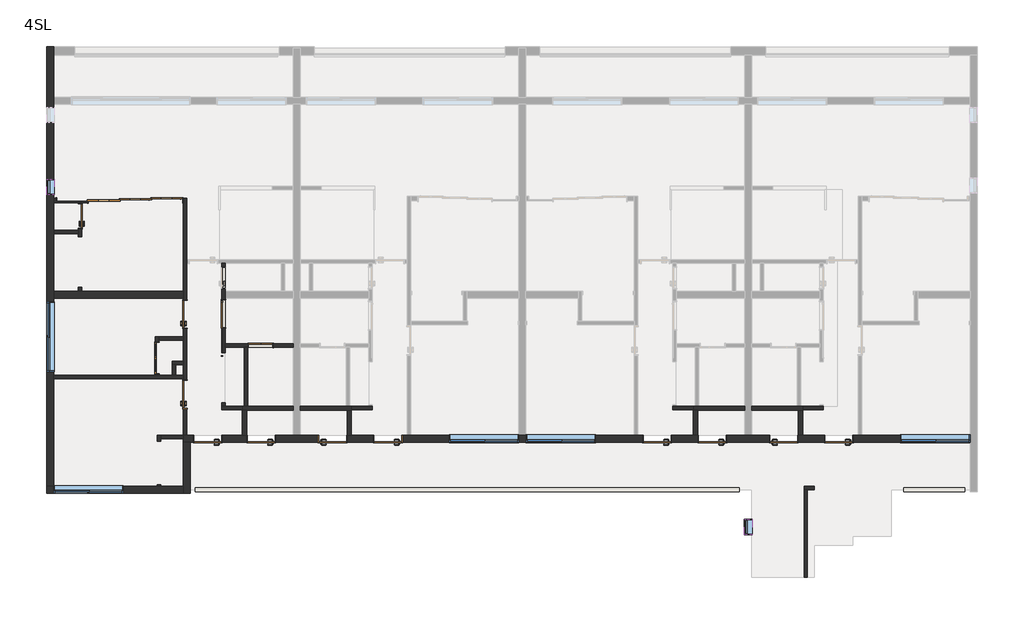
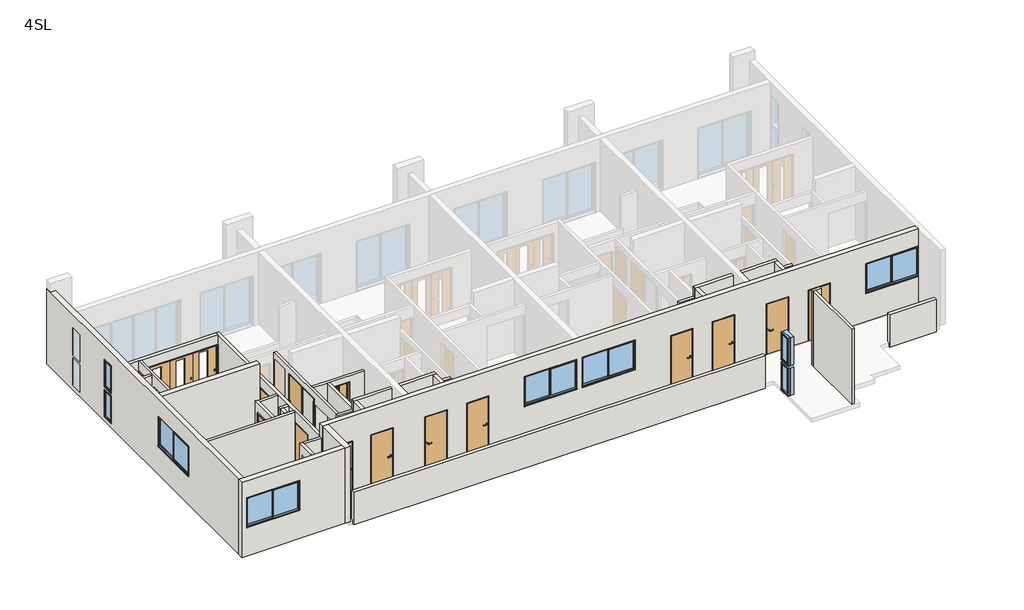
# One storey, part 1 of 3: 35 walls, 15 doors, 9 windows.
"""IFC4 building model written with IfcOpenShell, lengths in millimetres."""

from ifc_helpers import new_model, si_unit, frame, origin, place, context, project, spatial, polyline, outline, extrude, faceted_brep, transform, mapped, element, save
from components import door_02215395, door_74c77d62, door_21f0bdc0, door_3b96e66a, door_ecad7493, door_2193869f, door_aabc7979, door_12b42705, window_a7724039, window_4c3e1407, w0450_h1100_93ba837a

model = new_model("IFC4")

# Units and contexts
model_context = context("Model", 3, world=origin())
ifc_project = project(units=[si_unit("LENGTHUNIT", "METRE", prefix="MILLI")], contexts=[model_context])

# Site, building, storey
site = spatial("IfcSite", under=ifc_project)
building = spatial("IfcBuilding", under=site)
storey = spatial("IfcBuildingStorey", under=building, Name="4SL", Elevation=10000.0)

# Doors
placement = place(None, origin())
door_shape = door_02215395(model_context)
element("IfcDoor", 1, ObjectType="鋼製_片開きマンション黒 : SD-1 w800h2000", at=placement, inside=storey, context=model_context, shape_type="MappedRepresentation", body=[
    mapped(door_shape, transform((-6095.6194095, -909.7401342, 10000.0), x_axis=(-1.0, 0.0, 0.0), y_axis=(0.0, -1.0, 0.0), z_axis=(0.0, 0.0, 1.0))),
])
element("IfcDoor", 2, ObjectType="鋼製_片開きマンション黒 : SD-1 w800h2000", at=placement, inside=storey, context=model_context, shape_type="MappedRepresentation", body=[
    mapped(door_shape, transform((-945.6194095, -909.7401342, 10000.0), x_axis=(-1.0, 0.0, 0.0), y_axis=(0.0, -1.0, 0.0), z_axis=(0.0, 0.0, 1.0))),
])
element("IfcDoor", 3, ObjectType="鋼製_片開きマンション黒 : SD-1 w800h2000", at=placement, inside=storey, context=model_context, shape_type="MappedRepresentation", body=[
    mapped(door_shape, transform((6754.3805905, -909.7401342, 10000.0), x_axis=(-1.0, 0.0, 0.0), y_axis=(0.0, -1.0, 0.0), z_axis=(0.0, 0.0, 1.0))),
])
element("IfcDoor", 4, ObjectType="鋼製_片開きマンション黒 : SD-1 w800h2000", at=placement, inside=storey, context=model_context, shape_type="MappedRepresentation", body=[
    mapped(door_shape, transform((11954.3805905, -909.7401342, 10000.0), x_axis=(-1.0, 0.0, 0.0), y_axis=(0.0, -1.0, 0.0), z_axis=(0.0, 0.0, 1.0))),
])
element("IfcDoor", 5, ObjectType="鋼製_片開きマンション黒 : SD-2 w800h2000", at=placement, inside=storey, context=model_context, shape_type="MappedRepresentation", body=[
    mapped(door_shape, transform((-4565.6194095, -909.7401342, 10000.0), x_axis=(-1.0, 0.0, 0.0), y_axis=(0.0, -1.0, 0.0), z_axis=(0.0, 0.0, 1.0))),
])
element("IfcDoor", 6, ObjectType="鋼製_片開きマンション黒 : SD-2 w800h2000", at=placement, inside=storey, context=model_context, shape_type="MappedRepresentation", body=[
    mapped(door_shape, transform((8334.3805905, -909.7401342, 10000.0), x_axis=(-1.0, 0.0, 0.0), y_axis=(0.0, -1.0, 0.0), z_axis=(0.0, 0.0, 1.0))),
])
door_2_shape = door_74c77d62(model_context)
element("IfcDoor", 7, ObjectType="鋼製_片開きマンション黒 : SD-2 w800h2000", at=placement, inside=storey, context=model_context, shape_type="MappedRepresentation", body=[
    mapped(door_2_shape, transform((-2525.6194095, -909.7401342, 10000.0), x_axis=(1.0, 0.0, 0.0), y_axis=(0.0, 1.0, 0.0), z_axis=(0.0, 0.0, 1.0))),
])
element("IfcDoor", 8, ObjectType="鋼製_片開きマンション黒 : SD-2 w800h2000", at=placement, inside=storey, context=model_context, shape_type="MappedRepresentation", body=[
    mapped(door_2_shape, transform((10374.3805905, -909.7401342, 10000.0), x_axis=(1.0, 0.0, 0.0), y_axis=(0.0, 1.0, 0.0), z_axis=(0.0, 0.0, 1.0))),
])
door_3_shape = door_21f0bdc0(model_context)
element("IfcDoor", 9, ObjectType="木製_片開き_フラッシュ : WD-3 w700h2000", at=placement, inside=storey, context=model_context, shape_type="MappedRepresentation", body=[
    mapped(door_3_shape, transform((-9745.6194095, 5460.2598658, 10100.0), x_axis=(0.0, 1.0, 0.0), y_axis=(-1.0, 0.0, 0.0), z_axis=(0.0, 0.0, 1.0))),
])
door_4_shape = door_3b96e66a(model_context)
element("IfcDoor", 10, ObjectType="木製_片開き_フラッシュ : WD-1\u3000w800h2000", at=placement, inside=storey, context=model_context, shape_type="MappedRepresentation", body=[
    mapped(door_4_shape, transform((-6745.6194095, 365.2598658, 10060.0), x_axis=(0.0, 1.0, 0.0), y_axis=(-1.0, 0.0, 0.0), z_axis=(0.0, 0.0, 1.0))),
])
element("IfcDoor", 11, ObjectType="木製_片開き_フラッシュ : WD-1\u3000w800h2000", at=placement, inside=storey, context=model_context, shape_type="MappedRepresentation", body=[
    mapped(door_4_shape, transform((-6745.6194095, 2654.3897435, 10060.0), x_axis=(0.0, 1.0, 0.0), y_axis=(-1.0, 0.0, 0.0), z_axis=(0.0, 0.0, 1.0))),
])
door_5_shape = door_ecad7493(model_context)
element("IfcDoor", 12, ObjectType="木製_折戸2枚_フラッシュ(UB) : WD-5 w900h2000", at=placement, inside=storey, context=model_context, shape_type="MappedRepresentation", body=[
    mapped(door_5_shape, transform((-7545.6194095, 1404.0387532, 10060.0), x_axis=(0.0, 1.0, 0.0), y_axis=(-1.0, 0.0, 0.0), z_axis=(0.0, 0.0, 1.0))),
])
door_6_shape = door_2193869f(model_context)
element("IfcDoor", 13, ObjectType="木製_片引き3枚_フラッシュ2 : WD-8 w2700h2000", at=placement, inside=storey, context=model_context, shape_type="MappedRepresentation", body=[
    mapped(door_6_shape, transform((-8171.1549135, 5910.2598658, 10100.0), x_axis=(-1.0, 0.0, 0.0), y_axis=(0.0, -1.0, 0.0), z_axis=(0.0, 0.0, 1.0))),
])
door_7_shape = door_aabc7979(model_context)
element("IfcDoor", 14, ObjectType="木製_折戸2枚_フラッシュ(UB) : UB-1 w600h2000", at=placement, inside=storey, context=model_context, shape_type="MappedRepresentation", body=[
    mapped(door_7_shape, transform((-4585.6194095, 1760.2598658, 10210.0), x_axis=(1.0, 0.0, 0.0), y_axis=(0.0, 1.0, 0.0), z_axis=(0.0, 0.0, 1.0))),
])
door_8_shape = door_12b42705(model_context)
element("IfcDoor", 15, ObjectType="木製_片引き_フラッシュ : WD-4 w800h2000", at=placement, inside=storey, context=model_context, shape_type="MappedRepresentation", body=[
    mapped(door_8_shape, transform((-5645.6194095, 2664.7243619, 10210.0), x_axis=(0.0, -1.0, 0.0), y_axis=(1.0, 0.0, 0.0), z_axis=(0.0, 0.0, 1.0))),
])

# Walls
element("IfcWall", 16, ObjectType="(C2)120", at=placement, inside=storey, context=model_context, shape_type="Brep", body=[
    faceted_brep([(-3645.6194095, 30.2598658, 10000.0), (-5105.6194095, 30.2598658, 10000.0), (-5105.6194095, 30.2598658, 10060.0), (-5105.6194095, 30.2598658, 12460.0), (-5105.6194095, 30.2598658, 12850.0), (-3645.6194095, 30.2598658, 12850.0), (-3645.6194095, -89.7401342, 10000.0), (-3645.6194095, -89.7401342, 12850.0), (-4985.6194095, -89.7401342, 12850.0), (-5105.6194095, -89.7401342, 12850.0), (-5105.6194095, -89.7401342, 10000.0), (-4985.6194095, -89.7401342, 10000.0)], [[[0, 1, 2, 3, 4, 5]], [[6, 7, 8, 9, 10, 11]], [[1, 0, 6, 11, 10]], [[5, 4, 9, 8, 7]], [[1, 10, 9, 4, 3, 2]], [[0, 5, 7, 6]]]),
])
element("IfcWall", 17, ObjectType="(C2)120", at=placement, inside=storey, context=model_context, shape_type="Brep", body=[
    faceted_brep([(-5105.6194095, -89.7401342, 12850.0), (-5105.6194095, -89.7401342, 10000.0), (-5105.6194095, -809.7401342, 10000.0), (-5105.6194095, -809.7401342, 12850.0), (-4985.6194095, -89.7401342, 10000.0), (-4985.6194095, -89.7401342, 12850.0), (-4985.6194095, -809.7401342, 12850.0), (-4985.6194095, -809.7401342, 12020.0), (-4985.6194095, -809.7401342, 10000.0)], [[[0, 1, 2, 3]], [[4, 5, 6, 7, 8]], [[2, 1, 4, 8]], [[0, 3, 6, 5]], [[0, 5, 4, 1]], [[3, 2, 8, 7, 6]]]),
])
element("IfcWall", 18, ObjectType="(C2)120", at=placement, inside=storey, context=model_context, shape_type="Brep", body=[
    faceted_brep([(-3445.6194095, -89.7401342, 10000.0), (-2105.6194095, -89.7401342, 10000.0), (-1985.6194095, -89.7401342, 10000.0), (-1985.6194095, -89.7401342, 12850.0), (-2105.6194095, -89.7401342, 12850.0), (-3445.6194095, -89.7401342, 12850.0), (-3445.6194095, 30.2598658, 10000.0), (-3445.6194095, 30.2598658, 12850.0), (-1985.6194095, 30.2598658, 12850.0), (-1985.6194095, 30.2598658, 12460.0), (-1985.6194095, 30.2598658, 10000.0), (-2035.6194095, 30.2598658, 10000.0), (-2135.6194095, 30.2598658, 10000.0), (-1985.6194095, -69.7401342, 10000.0)], [[[0, 1, 2, 3, 4, 5]], [[6, 7, 8, 9, 10, 11, 12]], [[2, 1, 0, 6, 12, 11, 10, 13]], [[5, 4, 3, 8, 7]], [[2, 13, 10, 9, 8, 3]], [[0, 5, 7, 6]]]),
])
element("IfcWall", 19, ObjectType="(C2)120", at=placement, inside=storey, context=model_context, shape_type="Brep", body=[
    faceted_brep([(-2105.6194095, -89.7401342, 12850.0), (-2105.6194095, -89.7401342, 10000.0), (-2105.6194095, -809.7401342, 10000.0), (-2105.6194095, -809.7401342, 12020.0), (-2105.6194095, -809.7401342, 12850.0), (-1985.6194095, -89.7401342, 10000.0), (-1985.6194095, -89.7401342, 12850.0), (-1985.6194095, -809.7401342, 12850.0), (-1985.6194095, -809.7401342, 10000.0)], [[[0, 1, 2, 3, 4]], [[5, 6, 7, 8]], [[2, 1, 5, 8]], [[0, 4, 7, 6]], [[0, 6, 5, 1]], [[4, 3, 2, 8, 7]]]),
])
element("IfcWall", 20, ObjectType="(C2)120", at=placement, inside=storey, context=model_context, shape_type="Brep", body=[
    faceted_brep([(9254.3805905, 30.2598658, 10000.0), (7944.3805905, 30.2598658, 10000.0), (7844.3805905, 30.2598658, 10000.0), (7794.3805905, 30.2598658, 10000.0), (7794.3805905, 30.2598658, 12460.0), (7794.3805905, 30.2598658, 12850.0), (9254.3805905, 30.2598658, 12850.0), (9254.3805905, -89.7401342, 10000.0), (9254.3805905, -89.7401342, 12850.0), (7914.3805905, -89.7401342, 12850.0), (7794.3805905, -89.7401342, 12850.0), (7794.3805905, -89.7401342, 10000.0), (7914.3805905, -89.7401342, 10000.0), (7794.3805905, -69.7401342, 10000.0)], [[[0, 1, 2, 3, 4, 5, 6]], [[7, 8, 9, 10, 11, 12]], [[3, 2, 1, 0, 7, 12, 11, 13]], [[6, 5, 10, 9, 8]], [[3, 13, 11, 10, 5, 4]], [[0, 6, 8, 7]]]),
])
element("IfcWall", 21, ObjectType="(C2)120", at=placement, inside=storey, context=model_context, shape_type="Brep", body=[
    faceted_brep([(7794.3805905, -89.7401342, 12850.0), (7794.3805905, -89.7401342, 10000.0), (7794.3805905, -809.7401342, 10000.0), (7794.3805905, -809.7401342, 12850.0), (7914.3805905, -89.7401342, 10000.0), (7914.3805905, -89.7401342, 12850.0), (7914.3805905, -809.7401342, 12850.0), (7914.3805905, -809.7401342, 12020.0), (7914.3805905, -809.7401342, 10000.0)], [[[0, 1, 2, 3]], [[4, 5, 6, 7, 8]], [[2, 1, 4, 8]], [[0, 3, 6, 5]], [[0, 5, 4, 1]], [[3, 2, 8, 7, 6]]]),
])
element("IfcWall", 22, ObjectType="(C2)120", at=placement, inside=storey, context=model_context, shape_type="Brep", body=[
    faceted_brep([(9454.3805905, -89.7401342, 10000.0), (10794.3805905, -89.7401342, 10000.0), (10914.3805905, -89.7401342, 10000.0), (10914.3805905, -89.7401342, 12850.0), (10794.3805905, -89.7401342, 12850.0), (9454.3805905, -89.7401342, 12850.0), (9454.3805905, 30.2598658, 10000.0), (9454.3805905, 30.2598658, 12850.0), (10914.3805905, 30.2598658, 12850.0), (10914.3805905, 30.2598658, 12460.0), (10914.3805905, 30.2598658, 10000.0), (10864.3805905, 30.2598658, 10000.0), (10764.3805905, 30.2598658, 10000.0), (10914.3805905, -69.7401342, 10000.0)], [[[0, 1, 2, 3, 4, 5]], [[6, 7, 8, 9, 10, 11, 12]], [[2, 1, 0, 6, 12, 11, 10, 13]], [[5, 4, 3, 8, 7]], [[2, 13, 10, 9, 8, 3]], [[0, 5, 7, 6]]]),
])
element("IfcWall", 23, ObjectType="(C2)120", at=placement, inside=storey, context=model_context, shape_type="Brep", body=[
    faceted_brep([(10794.3805905, -89.7401342, 12850.0), (10794.3805905, -89.7401342, 10000.0), (10794.3805905, -809.7401342, 10000.0), (10794.3805905, -809.7401342, 12020.0), (10794.3805905, -809.7401342, 12850.0), (10914.3805905, -89.7401342, 10000.0), (10914.3805905, -89.7401342, 12850.0), (10914.3805905, -809.7401342, 12850.0), (10914.3805905, -809.7401342, 10000.0)], [[[0, 1, 2, 3, 4]], [[5, 6, 7, 8]], [[2, 1, 5, 8]], [[0, 4, 7, 6]], [[0, 6, 5, 1]], [[4, 3, 2, 8, 7]]]),
])
element("IfcWall", 24, ObjectType="(L)100", at=placement, inside=storey, context=model_context, shape_type="Brep", body=[
    faceted_brep([(-7545.6194095, -2259.7401342, 12460.0), (-7545.6194095, -809.7401342, 12460.0), (-7545.6194095, -809.7401342, 10060.0), (-7545.6194095, -975.9612468, 10060.0), (-7545.6194095, -975.9612468, 12080.0), (-7545.6194095, -2215.9612468, 12080.0), (-7545.6194095, -2215.9612468, 10060.0), (-7545.6194095, -2259.7401342, 10060.0), (-7445.6194095, -809.7401342, 12460.0), (-7445.6194095, -909.7401342, 12460.0), (-7445.6194095, -2259.7401342, 12460.0), (-7445.6194095, -2259.7401342, 10060.0), (-7445.6194095, -2215.9612468, 10060.0), (-7445.6194095, -2215.9612468, 12080.0), (-7445.6194095, -975.9612468, 12080.0), (-7445.6194095, -975.9612468, 10060.0), (-7445.6194095, -909.7401342, 10060.0), (-7445.6194095, -809.7401342, 10060.0)], [[[0, 1, 2, 3, 4, 5, 6, 7]], [[8, 9, 10, 11, 12, 13, 14, 15, 16, 17]], [[2, 17, 16, 15, 3]], [[11, 7, 6, 12]], [[1, 0, 10, 9, 8]], [[2, 1, 8, 17]], [[0, 7, 11, 10]], [[14, 4, 3, 15]], [[5, 13, 12, 6]], [[13, 5, 4, 14]]]),
])
element("IfcWall", 25, ObjectType="(L)100", at=placement, inside=storey, context=model_context, shape_type="SweptSolid", body=[
    extrude(outline(polyline([(-7445.6194095, -809.7401342), (-6795.6194095, -809.7401342), (-6795.6194095, -909.7401342), (-7445.6194095, -909.7401342), (-7445.6194095, -809.7401342)])), frame((0.0, 0.0, 10060.0), z_axis=(0.0, 0.0, 1.0), x_axis=(1.0, 0.0, 0.0)), (0.0, 0.0, 1.0), 2400.0),
])
element("IfcWall", 26, ObjectType="(L)100", at=placement, inside=storey, context=model_context, shape_type="Brep", body=[
    faceted_brep([(-6795.6194095, 910.2598658, 10060.0), (-7015.6194095, 910.2598658, 10060.0), (-7115.6194095, 910.2598658, 10060.0), (-10495.6194095, 910.2598658, 10060.0), (-10495.6194095, 910.2598658, 12460.0), (-7595.6194095, 910.2598658, 12460.0), (-7495.6194095, 910.2598658, 12460.0), (-7115.6194095, 910.2598658, 12460.0), (-7015.6194095, 910.2598658, 12460.0), (-6795.6194095, 910.2598658, 12460.0), (-6795.6194095, 810.2598658, 10060.0), (-6795.6194095, 810.2598658, 12460.0), (-10495.6194095, 810.2598658, 12460.0), (-10495.6194095, 810.2598658, 10060.0)], [[[0, 1, 2, 3, 4, 5, 6, 7, 8, 9]], [[10, 11, 12, 13]], [[3, 2, 1, 0, 10, 13]], [[9, 8, 7, 6, 5, 4, 12, 11]], [[4, 3, 13, 12]], [[0, 9, 11, 10]]]),
])
element("IfcWall", 27, ObjectType="(L)100", at=placement, inside=storey, context=model_context, shape_type="Brep", body=[
    faceted_brep([(-5105.6194095, 30.2598658, 10060.0), (-5595.6194095, 30.2598658, 10060.0), (-5695.6194095, 30.2598658, 10060.0), (-5695.6194095, 30.2598658, 12460.0), (-5595.6194095, 30.2598658, 12460.0), (-5105.6194095, 30.2598658, 12460.0), (-5105.6194095, -69.7401342, 10060.0), (-5105.6194095, -69.7401342, 12460.0), (-5695.6194095, -69.7401342, 12460.0), (-5695.6194095, -69.7401342, 10060.0)], [[[0, 1, 2, 3, 4, 5]], [[6, 7, 8, 9]], [[2, 1, 0, 6, 9]], [[5, 4, 3, 8, 7]], [[3, 2, 9, 8]], [[0, 5, 7, 6]]]),
])
element("IfcWall", 28, ObjectType="(L)100", at=placement, inside=storey, context=model_context, shape_type="Brep", body=[
    faceted_brep([(-5595.6194095, 4110.2598658, 12460.0), (-5595.6194095, 1810.2598658, 12460.0), (-5595.6194095, 1710.2598658, 12460.0), (-5595.6194095, 30.2598658, 12460.0), (-5595.6194095, 30.2598658, 10060.0), (-5595.6194095, 120.2598658, 10060.0), (-5595.6194095, 120.2598658, 12020.0), (-5595.6194095, 1560.2598658, 12020.0), (-5595.6194095, 1560.2598658, 10060.0), (-5595.6194095, 1710.2598658, 10060.0), (-5595.6194095, 1810.2598658, 10060.0), (-5595.6194095, 4110.2598658, 10060.0), (-5595.6194095, 2250.2598658, 12230.0), (-5595.6194095, 3090.2598658, 12230.0), (-5595.6194095, 3090.2598658, 10210.0), (-5595.6194095, 2250.2598658, 10210.0), (-5595.6194095, 4016.254513, 12230.0), (-5595.6194095, 4016.254513, 10210.0), (-5595.6194095, 3376.254513, 10210.0), (-5595.6194095, 3376.254513, 12230.0), (-5695.6194095, 30.2598658, 12460.0), (-5695.6194095, 4110.2598658, 12460.0), (-5695.6194095, 4110.2598658, 10060.0), (-5695.6194095, 1560.2598658, 10060.0), (-5695.6194095, 1560.2598658, 10210.0), (-5695.6194095, 3090.2598658, 10210.0), (-5695.6194095, 3090.2598658, 12230.0), (-5695.6194095, 1450.2598658, 12230.0), (-5695.6194095, 1450.2598658, 12020.0), (-5695.6194095, 120.2598658, 12020.0), (-5695.6194095, 120.2598658, 10060.0), (-5695.6194095, 30.2598658, 10060.0), (-5695.6194095, 4016.254513, 10210.0), (-5695.6194095, 4016.254513, 12230.0), (-5695.6194095, 3376.254513, 12230.0), (-5695.6194095, 3376.254513, 10210.0), (-5665.6194095, 2250.2598658, 12230.0), (-5665.6194095, 1450.2598658, 12230.0), (-5665.6194095, 1560.2598658, 10210.0), (-5665.6194095, 2250.2598658, 10210.0), (-5665.6194095, 1560.2598658, 12020.0), (-5665.6194095, 1450.2598658, 12020.0)], [[[0, 1, 2, 3, 4, 5, 6, 7, 8, 9, 10, 11], [12, 13, 14, 15], [16, 17, 18, 19]], [[20, 21, 22, 23, 24, 25, 26, 27, 28, 29, 30, 31], [32, 33, 34, 35]], [[22, 11, 10, 9, 8, 23]], [[4, 31, 30, 5]], [[3, 2, 1, 0, 21, 20]], [[0, 11, 22, 21]], [[4, 3, 20, 31]], [[36, 37, 27, 26, 13, 12]], [[13, 26, 25, 14]], [[14, 25, 24, 38, 39, 15]], [[39, 36, 12, 15]], [[37, 36, 39, 38, 40, 41]], [[27, 37, 41, 28]], [[7, 40, 38, 24, 23, 8]], [[29, 6, 5, 30]], [[40, 7, 6, 29, 28, 41]], [[16, 33, 32, 17]], [[17, 32, 35, 18]], [[18, 35, 34, 19]], [[33, 16, 19, 34]]]),
])
element("IfcWall", 29, ObjectType="(L)100", at=placement, inside=storey, context=model_context, shape_type="Brep", body=[
    faceted_brep([(-3645.6194095, 1810.2598658, 10060.0), (-5595.6194095, 1810.2598658, 10060.0), (-5595.6194095, 1810.2598658, 12460.0), (-3645.6194095, 1810.2598658, 12460.0), (-4215.6194095, 1810.2598658, 12230.0), (-4955.6194095, 1810.2598658, 12230.0), (-4955.6194095, 1810.2598658, 10210.0), (-4215.6194095, 1810.2598658, 10210.0), (-3645.6194095, 1710.2598658, 10060.0), (-3645.6194095, 1710.2598658, 12460.0), (-4955.6194095, 1710.2598658, 12460.0), (-5055.6194095, 1710.2598658, 12460.0), (-5595.6194095, 1710.2598658, 12460.0), (-5595.6194095, 1710.2598658, 10060.0), (-5055.6194095, 1710.2598658, 10060.0), (-4955.6194095, 1710.2598658, 10060.0), (-4215.6194095, 1710.2598658, 12230.0), (-4215.6194095, 1710.2598658, 10210.0), (-4955.6194095, 1710.2598658, 10210.0), (-4955.6194095, 1710.2598658, 12230.0)], [[[0, 1, 2, 3], [4, 5, 6, 7]], [[8, 9, 10, 11, 12, 13, 14, 15], [16, 17, 18, 19]], [[1, 0, 8, 15, 14, 13]], [[3, 2, 12, 11, 10, 9]], [[0, 3, 9, 8]], [[2, 1, 13, 12]], [[17, 16, 4, 7]], [[18, 17, 7, 6]], [[19, 18, 6, 5]], [[16, 19, 5, 4]]]),
])
element("IfcWall", 30, ObjectType="(L)100", at=placement, inside=storey, context=model_context, shape_type="Brep", body=[
    faceted_brep([(-7595.6194095, 2010.2598658, 10000.0), (-7595.6194095, 910.2598658, 10000.0), (-7595.6194095, 910.2598658, 12460.0), (-7595.6194095, 2010.2598658, 12460.0), (-7595.6194095, 934.0387532, 10060.0), (-7595.6194095, 1874.0387532, 10060.0), (-7595.6194095, 1874.0387532, 12080.0), (-7595.6194095, 934.0387532, 12080.0), (-7495.6194095, 910.2598658, 10000.0), (-7495.6194095, 2010.2598658, 10000.0), (-7495.6194095, 2010.2598658, 10060.0), (-7495.6194095, 2010.2598658, 12460.0), (-7495.6194095, 1910.2598658, 12460.0), (-7495.6194095, 910.2598658, 12460.0), (-7495.6194095, 1874.0387532, 10060.0), (-7495.6194095, 934.0387532, 10060.0), (-7495.6194095, 934.0387532, 12080.0), (-7495.6194095, 1874.0387532, 12080.0)], [[[0, 1, 2, 3], [4, 5, 6, 7]], [[8, 9, 10, 11, 12, 13], [14, 15, 16, 17]], [[1, 0, 9, 8]], [[3, 2, 13, 12, 11]], [[0, 3, 11, 10, 9]], [[2, 1, 8, 13]], [[5, 14, 17, 6]], [[14, 5, 4, 15]], [[15, 4, 7, 16]], [[16, 7, 6, 17]]]),
])
element("IfcWall", 31, ObjectType="(L)100", at=placement, inside=storey, context=model_context, shape_type="SweptSolid", body=[
    extrude(outline(polyline([(-7495.6194095, 2010.2598658), (-6795.6194095, 2010.2598658), (-6795.6194095, 1910.2598658), (-7495.6194095, 1910.2598658), (-7495.6194095, 2010.2598658)])), frame((0.0, 0.0, 10060.0), z_axis=(0.0, 0.0, 1.0), x_axis=(1.0, 0.0, 0.0)), (0.0, 0.0, 1.0), 2400.0),
])
element("IfcWall", 32, ObjectType="(L)100", at=placement, inside=storey, context=model_context, shape_type="Brep", body=[
    faceted_brep([(-6795.6194095, -809.7401342, 12500.0), (-6795.6194095, 5847.7598658, 12500.0), (-6795.6194095, 5972.7598658, 12500.0), (-6795.6194095, 5972.7598658, 12120.0), (-6795.6194095, 5972.7598658, 10100.0), (-6795.6194095, 3074.3897435, 10100.0), (-6795.6194095, 3074.3897435, 12080.0), (-6795.6194095, 2234.3897435, 12080.0), (-6795.6194095, 2234.3897435, 10100.0), (-6795.6194095, 785.2598658, 10100.0), (-6795.6194095, 785.2598658, 12080.0), (-6795.6194095, -54.7401342, 12080.0), (-6795.6194095, -54.7401342, 10100.0), (-6795.6194095, -809.7401342, 10100.0), (-6695.6194095, 5972.7598658, 12500.0), (-6695.6194095, -809.7401342, 12500.0), (-6695.6194095, -809.7401342, 10100.0), (-6695.6194095, -54.7401342, 10100.0), (-6695.6194095, -54.7401342, 12080.0), (-6695.6194095, 785.2598658, 12080.0), (-6695.6194095, 785.2598658, 10100.0), (-6695.6194095, 2234.3897435, 10100.0), (-6695.6194095, 2234.3897435, 12080.0), (-6695.6194095, 3074.3897435, 12080.0), (-6695.6194095, 3074.3897435, 10100.0), (-6695.6194095, 5972.7598658, 10100.0)], [[[0, 1, 2, 3, 4, 5, 6, 7, 8, 9, 10, 11, 12, 13]], [[14, 15, 16, 17, 18, 19, 20, 21, 22, 23, 24, 25]], [[4, 25, 24, 5]], [[16, 13, 12, 17]], [[20, 9, 8, 21]], [[2, 1, 0, 15, 14]], [[4, 3, 2, 14, 25]], [[13, 16, 15, 0]], [[19, 10, 9, 20]], [[11, 18, 17, 12]], [[10, 19, 18, 11]], [[23, 6, 5, 24]], [[7, 22, 21, 8]], [[6, 23, 22, 7]]]),
])
element("IfcWall", 33, ObjectType="(L)100", at=placement, inside=storey, context=model_context, shape_type="SweptSolid", body=[
    extrude(outline(polyline([(3310.2598658, 12500.0), (5847.7598658, 12500.0), (5847.7598658, 10100.0), (5830.2598658, 10100.0), (5830.2598658, 12120.0), (5090.2598658, 12120.0), (5090.2598658, 10100.0), (4866.254513, 10100.0), (4866.254513, 12080.0), (3426.254513, 12080.0), (3426.254513, 10100.0), (3310.2598658, 10100.0), (3310.2598658, 12500.0)])), frame((-9795.6194095, 0.0, 0.0), z_axis=(1.0, 0.0, 0.0), x_axis=(0.0, 1.0, 0.0)), (0.0, 0.0, 1.0), 100.0),
])
element("IfcWall", 34, ObjectType="(L)100", at=placement, inside=storey, context=model_context, shape_type="SweptSolid", body=[
    extrude(outline(polyline([(-10495.6194095, 5060.2598658), (-9795.6194095, 5060.2598658), (-9795.6194095, 4960.2598658), (-10495.6194095, 4960.2598658), (-10495.6194095, 5060.2598658)])), frame((0.0, 0.0, 10060.0), z_axis=(0.0, 0.0, 1.0), x_axis=(1.0, 0.0, 0.0)), (0.0, 0.0, 1.0), 2400.0),
])
element("IfcWall", 35, ObjectType="(L)100", at=placement, inside=storey, context=model_context, shape_type="Brep", body=[
    faceted_brep([(-1985.6194095, -69.7401342, 10000.0), (-1395.6194095, -69.7401342, 10000.0), (-1395.6194095, -69.7401342, 12460.0), (-1985.6194095, -69.7401342, 12460.0), (-1985.6194095, 30.2598658, 10000.0), (-1985.6194095, 30.2598658, 12460.0), (-1495.6194095, 30.2598658, 12460.0), (-1395.6194095, 30.2598658, 12460.0), (-1395.6194095, 30.2598658, 10060.0), (-1395.6194095, 30.2598658, 10000.0)], [[[0, 1, 2, 3]], [[4, 5, 6, 7, 8, 9]], [[1, 0, 4, 9]], [[3, 2, 7, 6, 5]], [[2, 1, 9, 8, 7]], [[0, 3, 5, 4]]]),
])
element("IfcWall", 36, ObjectType="(L)100", at=placement, inside=storey, context=model_context, shape_type="Brep", body=[
    faceted_brep([(-5055.6194095, 1710.2598658, 10060.0), (-5055.6194095, 30.2598658, 10060.0), (-5055.6194095, 30.2598658, 12460.0), (-5055.6194095, 1710.2598658, 12460.0), (-4955.6194095, 1710.2598658, 10060.0), (-4955.6194095, 1710.2598658, 10210.0), (-4955.6194095, 1710.2598658, 12230.0), (-4955.6194095, 1710.2598658, 12460.0), (-4955.6194095, 30.2598658, 12460.0), (-4955.6194095, 30.2598658, 10060.0)], [[[0, 1, 2, 3]], [[4, 5, 6, 7, 8, 9]], [[1, 0, 4, 9]], [[3, 2, 8, 7]], [[2, 1, 9, 8]], [[0, 3, 7, 6, 5, 4]]]),
])
element("IfcWall", 37, ObjectType="(L)100", at=placement, inside=storey, context=model_context, shape_type="Brep", body=[
    faceted_brep([(7794.3805905, 30.2598658, 10000.0), (7204.3805905, 30.2598658, 10000.0), (7204.3805905, 30.2598658, 10060.0), (7204.3805905, 30.2598658, 12460.0), (7304.3805905, 30.2598658, 12460.0), (7794.3805905, 30.2598658, 12460.0), (7794.3805905, -69.7401342, 10000.0), (7794.3805905, -69.7401342, 12460.0), (7204.3805905, -69.7401342, 12460.0), (7204.3805905, -69.7401342, 10000.0)], [[[0, 1, 2, 3, 4, 5]], [[6, 7, 8, 9]], [[1, 0, 6, 9]], [[5, 4, 3, 8, 7]], [[3, 2, 1, 9, 8]], [[0, 5, 7, 6]]]),
])
element("IfcWall", 38, ObjectType="(L)100", at=placement, inside=storey, context=model_context, shape_type="Brep", body=[
    faceted_brep([(10914.3805905, -69.7401342, 10000.0), (11504.3805905, -69.7401342, 10000.0), (11504.3805905, -69.7401342, 12460.0), (10914.3805905, -69.7401342, 12460.0), (10914.3805905, 30.2598658, 10000.0), (10914.3805905, 30.2598658, 12460.0), (11404.3805905, 30.2598658, 12460.0), (11504.3805905, 30.2598658, 12460.0), (11504.3805905, 30.2598658, 10060.0), (11504.3805905, 30.2598658, 10000.0)], [[[0, 1, 2, 3]], [[4, 5, 6, 7, 8, 9]], [[1, 0, 4, 9]], [[3, 2, 7, 6, 5]], [[2, 1, 9, 8, 7]], [[0, 3, 5, 4]]]),
])
element("IfcWall", 39, ObjectType="(L)100", at=placement, inside=storey, context=model_context, shape_type="Brep", body=[
    faceted_brep([(-6795.6194095, 1310.2598658, 10060.0), (-7115.6194095, 1310.2598658, 10060.0), (-7115.6194095, 1310.2598658, 12460.0), (-6795.6194095, 1310.2598658, 12460.0), (-6795.6194095, 1210.2598658, 10060.0), (-6795.6194095, 1210.2598658, 12460.0), (-7015.6194095, 1210.2598658, 12460.0), (-7115.6194095, 1210.2598658, 12460.0), (-7115.6194095, 1210.2598658, 10060.0), (-7015.6194095, 1210.2598658, 10060.0)], [[[0, 1, 2, 3]], [[4, 5, 6, 7, 8, 9]], [[1, 0, 4, 9, 8]], [[3, 2, 7, 6, 5]], [[2, 1, 8, 7]], [[0, 3, 5, 4]]]),
])
element("IfcWall", 40, ObjectType="(L)100", at=placement, inside=storey, context=model_context, shape_type="SweptSolid", body=[
    extrude(outline(polyline([(-7115.6194095, 910.2598658), (-7115.6194095, 1210.2598658), (-7015.6194095, 1210.2598658), (-7015.6194095, 910.2598658), (-7115.6194095, 910.2598658)])), frame((0.0, 0.0, 10060.0), z_axis=(0.0, 0.0, 1.0), x_axis=(1.0, 0.0, 0.0)), (0.0, 0.0, 1.0), 2400.0),
])
element("IfcWall", 41, ObjectType="(L)100", at=placement, inside=storey, context=model_context, shape_type="Brep", body=[
    faceted_brep([(11254.3805905, -2259.7401342, 10000.0), (10954.3805905, -2259.7401342, 10000.0), (10954.3805905, -2259.7401342, 13000.0), (11254.3805905, -2259.7401342, 13000.0), (11254.3805905, -2359.7401342, 10000.0), (11254.3805905, -2359.7401342, 13000.0), (11054.3805905, -2359.7401342, 13000.0), (10954.3805905, -2359.7401342, 13000.0), (10954.3805905, -2359.7401342, 10000.0), (11054.3805905, -2359.7401342, 10000.0)], [[[0, 1, 2, 3]], [[4, 5, 6, 7, 8, 9]], [[1, 0, 4, 9, 8]], [[3, 2, 7, 6, 5]], [[2, 1, 8, 7]], [[0, 3, 5, 4]]]),
])
element("IfcWall", 42, ObjectType="(L)100", at=placement, inside=storey, context=model_context, shape_type="SweptSolid", body=[
    extrude(outline(polyline([(10954.3805905, -4859.7401342), (10954.3805905, -2359.7401342), (11054.3805905, -2359.7401342), (11054.3805905, -4859.7401342), (10954.3805905, -4859.7401342)])), frame((0.0, 0.0, 10000.0), z_axis=(0.0, 0.0, 1.0), x_axis=(1.0, 0.0, 0.0)), (0.0, 0.0, 1.0), 3000.0),
])
element("IfcWall", 43, ObjectType="(L1)125", at=placement, inside=storey, context=model_context, shape_type="Brep", body=[
    faceted_brep([(-6795.6194095, 5847.7598658, 12500.0), (-9695.6194095, 5847.7598658, 12500.0), (-9795.6194095, 5847.7598658, 12500.0), (-10495.6194095, 5847.7598658, 12500.0), (-10495.6194095, 5847.7598658, 10100.0), (-9795.6194095, 5847.7598658, 10100.0), (-9695.6194095, 5847.7598658, 10100.0), (-9535.6194095, 5847.7598658, 10100.0), (-9535.6194095, 5847.7598658, 12120.0), (-6795.6194095, 5847.7598658, 12120.0), (-10495.6194095, 5972.7598658, 12500.0), (-6795.6194095, 5972.7598658, 12500.0), (-6795.6194095, 5972.7598658, 12120.0), (-10435.6194095, 5972.7598658, 12120.0), (-10435.6194095, 5972.7598658, 10100.0), (-10495.6194095, 5972.7598658, 10100.0), (-10435.6194095, 5882.7598658, 10100.0), (-9535.6194095, 5882.7598658, 10100.0), (-9535.6194095, 5882.7598658, 12120.0), (-10435.6194095, 5882.7598658, 12120.0)], [[[0, 1, 2, 3, 4, 5, 6, 7, 8, 9]], [[10, 11, 12, 13, 14, 15]], [[4, 15, 14, 16, 17, 7, 6, 5]], [[3, 2, 1, 0, 11, 10]], [[4, 3, 10, 15]], [[11, 0, 9, 12]], [[18, 19, 13, 12, 9, 8]], [[17, 18, 8, 7]], [[19, 18, 17, 16]], [[19, 16, 14, 13]]]),
])
element("IfcWall", 44, ObjectType="(R)120", at=placement, inside=storey, context=model_context, shape_type="SweptSolid", body=[
    extrude(outline(polyline([(9104.3805905, -2419.7401342), (-6448.5682145, -2419.7401342), (-6448.5682145, -2299.7401342), (9104.3805905, -2299.7401342), (9104.3805905, -2419.7401342)])), frame((0.0, 0.0, 9800.0), z_axis=(0.0, 0.0, 1.0), x_axis=(1.0, 0.0, 0.0)), (0.0, 0.0, 1.0), 1300.0),
])
element("IfcWall", 45, ObjectType="(R)120", at=placement, inside=storey, context=model_context, shape_type="SweptSolid", body=[
    extrude(outline(polyline([(15554.3805905, -2419.7401342), (13804.3805905, -2419.7401342), (13804.3805905, -2299.7401342), (15554.3805905, -2299.7401342), (15554.3805905, -2419.7401342)])), frame((0.0, 0.0, 9800.0), z_axis=(0.0, 0.0, 1.0), x_axis=(1.0, 0.0, 0.0)), (0.0, 0.0, 1.0), 1300.0),
])
element("IfcWall", 46, ObjectType="(R)200", at=placement, inside=storey, context=model_context, shape_type="Brep", body=[
    faceted_brep([(-6795.6194095, -809.7401342, 13000.0), (-3645.6194095, -809.7401342, 13000.0), (-3445.6194095, -809.7401342, 13000.0), (2804.3805905, -809.7401342, 13000.0), (3004.3805905, -809.7401342, 13000.0), (9254.3805905, -809.7401342, 13000.0), (9454.3805905, -809.7401342, 13000.0), (15704.3805905, -809.7401342, 13000.0), (15704.3805905, -809.7401342, 12320.0), (13704.3805905, -809.7401342, 12320.0), (13704.3805905, -809.7401342, 11120.0), (15704.3805905, -809.7401342, 11120.0), (15704.3805905, -809.7401342, 10000.0), (12374.3805905, -809.7401342, 10000.0), (12374.3805905, -809.7401342, 12020.0), (11534.3805905, -809.7401342, 12020.0), (11534.3805905, -809.7401342, 10000.0), (10914.3805905, -809.7401342, 10000.0), (10794.3805905, -809.7401342, 10000.0), (10794.3805905, -809.7401342, 12020.0), (9954.3805905, -809.7401342, 12020.0), (9954.3805905, -809.7401342, 10000.0), (9454.3805905, -809.7401342, 10000.0), (9254.3805905, -809.7401342, 10000.0), (8754.3805905, -809.7401342, 10000.0), (8754.3805905, -809.7401342, 12020.0), (7914.3805905, -809.7401342, 12020.0), (7914.3805905, -809.7401342, 10000.0), (7794.3805905, -809.7401342, 10000.0), (7174.3805905, -809.7401342, 10000.0), (7174.3805905, -809.7401342, 12020.0), (6334.3805905, -809.7401342, 12020.0), (6334.3805905, -809.7401342, 10000.0), (3004.3805905, -809.7401342, 10000.0), (2804.3805905, -809.7401342, 10000.0), (-525.6194095, -809.7401342, 10000.0), (-525.6194095, -809.7401342, 12020.0), (-1365.6194095, -809.7401342, 12020.0), (-1365.6194095, -809.7401342, 10000.0), (-1985.6194095, -809.7401342, 10000.0), (-2105.6194095, -809.7401342, 10000.0), (-2105.6194095, -809.7401342, 12020.0), (-2945.6194095, -809.7401342, 12020.0), (-2945.6194095, -809.7401342, 10000.0), (-3445.6194095, -809.7401342, 10000.0), (-3645.6194095, -809.7401342, 10000.0), (-4145.6194095, -809.7401342, 10000.0), (-4145.6194095, -809.7401342, 12020.0), (-4985.6194095, -809.7401342, 12020.0), (-4985.6194095, -809.7401342, 10000.0), (-5105.6194095, -809.7401342, 10000.0), (-5675.6194095, -809.7401342, 10000.0), (-5675.6194095, -809.7401342, 12020.0), (-6515.6194095, -809.7401342, 12020.0), (-6515.6194095, -809.7401342, 10000.0), (-6795.6194095, -809.7401342, 10000.0), (-6795.6194095, -809.7401342, 10100.0), (-6795.6194095, -809.7401342, 12500.0), (5004.3805905, -809.7401342, 11120.0), (5004.3805905, -809.7401342, 12320.0), (3004.3805905, -809.7401342, 12320.0), (3004.3805905, -809.7401342, 11120.0), (2804.3805905, -809.7401342, 11120.0), (2804.3805905, -809.7401342, 12320.0), (804.3805905, -809.7401342, 12320.0), (804.3805905, -809.7401342, 11120.0), (15704.3805905, -1009.7401342, 13000.0), (-6595.6194095, -1009.7401342, 13000.0), (-6795.6194095, -1009.7401342, 13000.0), (-6795.6194095, -1009.7401342, 10000.0), (-6595.6194095, -1009.7401342, 10000.0), (-6515.6194095, -1009.7401342, 10000.0), (-6515.6194095, -1009.7401342, 12020.0), (-5675.6194095, -1009.7401342, 12020.0), (-5675.6194095, -1009.7401342, 10000.0), (-4985.6194095, -1009.7401342, 10000.0), (-4985.6194095, -1009.7401342, 12020.0), (-4145.6194095, -1009.7401342, 12020.0), (-4145.6194095, -1009.7401342, 10000.0), (-2945.6194095, -1009.7401342, 10000.0), (-2945.6194095, -1009.7401342, 12020.0), (-2105.6194095, -1009.7401342, 12020.0), (-2105.6194095, -1009.7401342, 10000.0), (-1365.6194095, -1009.7401342, 10000.0), (-1365.6194095, -1009.7401342, 12020.0), (-525.6194095, -1009.7401342, 12020.0), (-525.6194095, -1009.7401342, 10000.0), (6334.3805905, -1009.7401342, 10000.0), (6334.3805905, -1009.7401342, 12020.0), (7174.3805905, -1009.7401342, 12020.0), (7174.3805905, -1009.7401342, 10000.0), (7914.3805905, -1009.7401342, 10000.0), (7914.3805905, -1009.7401342, 12020.0), (8754.3805905, -1009.7401342, 12020.0), (8754.3805905, -1009.7401342, 10000.0), (9954.3805905, -1009.7401342, 10000.0), (9954.3805905, -1009.7401342, 12020.0), (10794.3805905, -1009.7401342, 12020.0), (10794.3805905, -1009.7401342, 10000.0), (11534.3805905, -1009.7401342, 10000.0), (11534.3805905, -1009.7401342, 12020.0), (12374.3805905, -1009.7401342, 12020.0), (12374.3805905, -1009.7401342, 10000.0), (15704.3805905, -1009.7401342, 10000.0), (15704.3805905, -1009.7401342, 11120.0), (13704.3805905, -1009.7401342, 11120.0), (13704.3805905, -1009.7401342, 12320.0), (15704.3805905, -1009.7401342, 12320.0), (5004.3805905, -1009.7401342, 11120.0), (3004.3805905, -1009.7401342, 11120.0), (3004.3805905, -1009.7401342, 12320.0), (5004.3805905, -1009.7401342, 12320.0), (2804.3805905, -1009.7401342, 11120.0), (804.3805905, -1009.7401342, 11120.0), (804.3805905, -1009.7401342, 12320.0), (2804.3805905, -1009.7401342, 12320.0)], [[[0, 1, 2, 3, 4, 5, 6, 7, 8, 9, 10, 11, 12, 13, 14, 15, 16, 17, 18, 19, 20, 21, 22, 23, 24, 25, 26, 27, 28, 29, 30, 31, 32, 33, 34, 35, 36, 37, 38, 39, 40, 41, 42, 43, 44, 45, 46, 47, 48, 49, 50, 51, 52, 53, 54, 55, 56, 57], [58, 59, 60, 61], [62, 63, 64, 65]], [[66, 67, 68, 69, 70, 71, 72, 73, 74, 75, 76, 77, 78, 79, 80, 81, 82, 83, 84, 85, 86, 87, 88, 89, 90, 91, 92, 93, 94, 95, 96, 97, 98, 99, 100, 101, 102, 103, 104, 105, 106, 107], [108, 109, 110, 111], [112, 113, 114, 115]], [[69, 55, 54, 71, 70]], [[12, 103, 102, 13]], [[74, 51, 50, 49, 75]], [[78, 46, 45, 44, 43, 79]], [[38, 83, 82, 40, 39]], [[86, 35, 34, 33, 32, 87]], [[90, 29, 28, 27, 91]], [[94, 24, 23, 22, 21, 95]], [[16, 99, 98, 18, 17]], [[7, 6, 5, 4, 3, 2, 1, 0, 68, 67, 66]], [[7, 66, 107, 8]], [[103, 12, 11, 104]], [[55, 69, 68, 0, 57, 56]], [[54, 53, 72, 71]], [[52, 51, 74, 73]], [[53, 52, 73, 72]], [[49, 48, 76, 75]], [[47, 46, 78, 77]], [[48, 47, 77, 76]], [[38, 37, 84, 83]], [[36, 35, 86, 85]], [[37, 36, 85, 84]], [[82, 81, 41, 40]], [[80, 79, 43, 42]], [[81, 80, 42, 41]], [[32, 31, 88, 87]], [[30, 29, 90, 89]], [[31, 30, 89, 88]], [[27, 26, 92, 91]], [[25, 24, 94, 93]], [[26, 25, 93, 92]], [[16, 15, 100, 99]], [[14, 13, 102, 101]], [[15, 14, 101, 100]], [[98, 97, 19, 18]], [[96, 95, 21, 20]], [[97, 96, 20, 19]], [[106, 9, 8, 107]], [[9, 106, 105, 10]], [[10, 105, 104, 11]], [[59, 58, 108, 111]], [[60, 59, 111, 110]], [[61, 60, 110, 109]], [[58, 61, 109, 108]], [[63, 62, 112, 115]], [[64, 63, 115, 114]], [[65, 64, 114, 113]], [[62, 65, 113, 112]]]),
])
element("IfcWall", 47, ObjectType="(R)200", at=placement, inside=storey, context=model_context, shape_type="Brep", body=[
    faceted_brep([(-10495.6194095, -2259.7401342, 13000.0), (-10495.6194095, -2259.7401342, 10000.0), (-10495.6194095, 3110.2598658, 10000.0), (-10495.6194095, 3310.2598658, 10000.0), (-10495.6194095, 8660.2598658, 10000.0), (-10495.6194095, 8860.2598658, 10000.0), (-10495.6194095, 10059.9866207, 10000.0), (-10495.6194095, 10309.9866207, 10000.0), (-10495.6194095, 10309.9866207, 13000.0), (-10495.6194095, 10059.9866207, 13000.0), (-10495.6194095, 8860.2598658, 13000.0), (-10495.6194095, 8660.2598658, 13000.0), (-10495.6194095, 3310.2598658, 13000.0), (-10495.6194095, 3110.2598658, 13000.0), (-10495.6194095, 1014.3897435, 11130.0), (-10495.6194095, 1014.3897435, 12330.0), (-10495.6194095, 3014.3897435, 12330.0), (-10495.6194095, 3014.3897435, 11130.0), (-10495.6194095, 6070.2598658, 11380.0), (-10495.6194095, 6070.2598658, 12480.0), (-10495.6194095, 6520.2598658, 12480.0), (-10495.6194095, 6520.2598658, 11380.0), (-10495.6194095, 6070.2598658, 10180.0), (-10495.6194095, 6070.2598658, 11280.0), (-10495.6194095, 6520.2598658, 11280.0), (-10495.6194095, 6520.2598658, 10180.0), (-10495.6194095, 8130.2598658, 11380.0), (-10495.6194095, 8130.2598658, 12480.0), (-10495.6194095, 8580.2598658, 12480.0), (-10495.6194095, 8580.2598658, 11380.0), (-10495.6194095, 8130.2598658, 10180.0), (-10495.6194095, 8130.2598658, 11280.0), (-10495.6194095, 8580.2598658, 11280.0), (-10495.6194095, 8580.2598658, 10180.0), (-10695.6194095, -2259.7401342, 10000.0), (-10695.6194095, -2259.7401342, 13000.0), (-10695.6194095, 10059.9866207, 13000.0), (-10695.6194095, 10309.9866207, 13000.0), (-10695.6194095, 10309.9866207, 10000.0), (-10695.6194095, 1014.3897435, 11130.0), (-10695.6194095, 3014.3897435, 11130.0), (-10695.6194095, 3014.3897435, 12330.0), (-10695.6194095, 1014.3897435, 12330.0), (-10695.6194095, 6070.2598658, 11380.0), (-10695.6194095, 6520.2598658, 11380.0), (-10695.6194095, 6520.2598658, 12480.0), (-10695.6194095, 6070.2598658, 12480.0), (-10695.6194095, 6070.2598658, 10180.0), (-10695.6194095, 6520.2598658, 10180.0), (-10695.6194095, 6520.2598658, 11280.0), (-10695.6194095, 6070.2598658, 11280.0), (-10695.6194095, 8130.2598658, 11380.0), (-10695.6194095, 8580.2598658, 11380.0), (-10695.6194095, 8580.2598658, 12480.0), (-10695.6194095, 8130.2598658, 12480.0), (-10695.6194095, 8130.2598658, 10180.0), (-10695.6194095, 8580.2598658, 10180.0), (-10695.6194095, 8580.2598658, 11280.0), (-10695.6194095, 8130.2598658, 11280.0)], [[[0, 1, 2, 3, 4, 5, 6, 7, 8, 9, 10, 11, 12, 13], [14, 15, 16, 17], [18, 19, 20, 21], [22, 23, 24, 25], [26, 27, 28, 29], [30, 31, 32, 33]], [[34, 35, 36, 37, 38], [39, 40, 41, 42], [43, 44, 45, 46], [47, 48, 49, 50], [51, 52, 53, 54], [55, 56, 57, 58]], [[7, 6, 5, 4, 3, 2, 1, 34, 38]], [[0, 13, 12, 11, 10, 9, 8, 37, 36, 35]], [[8, 7, 38, 37]], [[0, 35, 34, 1]], [[15, 14, 39, 42]], [[16, 15, 42, 41]], [[17, 16, 41, 40]], [[14, 17, 40, 39]], [[19, 18, 43, 46]], [[20, 19, 46, 45]], [[21, 20, 45, 44]], [[18, 21, 44, 43]], [[23, 22, 47, 50]], [[24, 23, 50, 49]], [[25, 24, 49, 48]], [[22, 25, 48, 47]], [[27, 26, 51, 54]], [[28, 27, 54, 53]], [[29, 28, 53, 52]], [[26, 29, 52, 51]], [[31, 30, 55, 58]], [[32, 31, 58, 57]], [[33, 32, 57, 56]], [[30, 33, 56, 55]]]),
])
element("IfcWall", 48, ObjectType="(R)200", at=placement, inside=storey, context=model_context, shape_type="Brep", body=[
    faceted_brep([(-6795.6194095, -2259.7401342, 10000.0), (-10495.6194095, -2259.7401342, 10000.0), (-10695.6194095, -2259.7401342, 10000.0), (-10695.6194095, -2259.7401342, 13000.0), (-10495.6194095, -2259.7401342, 13000.0), (-6795.6194095, -2259.7401342, 13000.0), (-8505.6194095, -2259.7401342, 11120.0), (-8505.6194095, -2259.7401342, 12320.0), (-10505.6194095, -2259.7401342, 12320.0), (-10505.6194095, -2259.7401342, 11120.0), (-6795.6194095, -2459.7401342, 10000.0), (-6795.6194095, -2459.7401342, 13000.0), (-10495.6194095, -2459.7401342, 13000.0), (-10695.6194095, -2459.7401342, 13000.0), (-10695.6194095, -2459.7401342, 10000.0), (-8505.6194095, -2459.7401342, 11120.0), (-10505.6194095, -2459.7401342, 11120.0), (-10505.6194095, -2459.7401342, 12320.0), (-8505.6194095, -2459.7401342, 12320.0)], [[[0, 1, 2, 3, 4, 5], [6, 7, 8, 9]], [[10, 11, 12, 13, 14], [15, 16, 17, 18]], [[2, 1, 0, 10, 14]], [[5, 4, 3, 13, 12, 11]], [[0, 5, 11, 10]], [[2, 14, 13, 3]], [[7, 6, 15, 18]], [[8, 7, 18, 17]], [[9, 8, 17, 16]], [[6, 9, 16, 15]]]),
])
element("IfcWall", 49, ObjectType="(R)200", at=placement, inside=storey, context=model_context, shape_type="Brep", body=[
    faceted_brep([(-6595.6194095, -2459.7401342, 10000.0), (-6595.6194095, -1009.7401342, 10000.0), (-6595.6194095, -1009.7401342, 13000.0), (-6595.6194095, -2459.7401342, 13000.0), (-6795.6194095, -2459.7401342, 10000.0), (-6795.6194095, -2459.7401342, 13000.0), (-6795.6194095, -2259.7401342, 13000.0), (-6795.6194095, -1009.7401342, 13000.0), (-6795.6194095, -1009.7401342, 10000.0), (-6795.6194095, -2259.7401342, 10000.0)], [[[0, 1, 2, 3]], [[4, 5, 6, 7, 8, 9]], [[1, 0, 4, 9, 8]], [[3, 2, 7, 6, 5]], [[1, 8, 7, 2]], [[0, 3, 5, 4]]]),
])
element("IfcWall", 50, ObjectType="(R)200", at=placement, inside=storey, context=model_context, shape_type="SweptSolid", body=[
    extrude(outline(polyline([(-10495.6194095, 3310.2598658), (-6795.6194095, 3310.2598658), (-6795.6194095, 3110.2598658), (-10495.6194095, 3110.2598658), (-10495.6194095, 3310.2598658)])), frame((0.0, 0.0, 10000.0), z_axis=(0.0, 0.0, 1.0), x_axis=(1.0, 0.0, 0.0)), (0.0, 0.0, 1.0), 3000.0),
])

# Windows
window_shape = window_a7724039(model_context)
element("IfcWindow", 51, ObjectType="窓-引違2枚-内付 : AW-4' w2000 h1200", at=placement, inside=storey, context=model_context, shape_type="MappedRepresentation", body=[
    mapped(window_shape, transform((14704.3805905, -909.7401342, 10520.0), x_axis=(-1.0, 0.0, 0.0), y_axis=(0.0, -1.0, 0.0), z_axis=(0.0, 0.0, 1.0))),
])
window_2_shape = window_4c3e1407(model_context)
element("IfcWindow", 52, ObjectType="窓-開き-内付 : AW-1 w0450 h1100", at=placement, inside=storey, context=model_context, shape_type="MappedRepresentation", body=[
    mapped(window_2_shape, transform((9354.3805905, -3429.7401342, 10180.0), x_axis=(0.0, 1.0, 0.0), y_axis=(-1.0, 0.0, 0.0), z_axis=(0.0, 0.0, 1.0))),
])
element("IfcWindow", 53, ObjectType="窓-開き-内付 : AW-1 w0450 h1100", at=placement, inside=storey, context=model_context, shape_type="MappedRepresentation", body=[
    mapped(window_2_shape, transform((-10595.6194095, 6295.2598658, 10180.0), x_axis=(0.0, 1.0, 0.0), y_axis=(-1.0, 0.0, 0.0), z_axis=(0.0, 0.0, 1.0))),
])
element("IfcWindow", 54, ObjectType="窓-引違2枚-内付 : AW-4 w2000 h1200", at=placement, inside=storey, context=model_context, shape_type="MappedRepresentation", body=[
    mapped(window_shape, transform((-10595.6194095, 2014.3897435, 10530.0), x_axis=(0.0, 1.0, 0.0), y_axis=(-1.0, 0.0, 0.0), z_axis=(0.0, 0.0, 1.0))),
])
element("IfcWindow", 55, ObjectType="窓-引違2枚-内付 : AW-4 w2000 h1200", at=placement, inside=storey, context=model_context, shape_type="MappedRepresentation", body=[
    mapped(window_shape, transform((1804.3805905, -909.7401342, 10520.0), x_axis=(-1.0, 0.0, 0.0), y_axis=(0.0, -1.0, 0.0), z_axis=(0.0, 0.0, 1.0))),
])
element("IfcWindow", 56, ObjectType="窓-引違2枚-内付 : AW-4 w2000 h1200", at=placement, inside=storey, context=model_context, shape_type="MappedRepresentation", body=[
    mapped(window_shape, transform((4004.3805905, -909.7401342, 10520.0), x_axis=(-1.0, 0.0, 0.0), y_axis=(0.0, -1.0, 0.0), z_axis=(0.0, 0.0, 1.0))),
])
element("IfcWindow", 57, ObjectType="窓-引違2枚-内付 : AW-4 w2000 h1200", at=placement, inside=storey, context=model_context, shape_type="MappedRepresentation", body=[
    mapped(window_shape, transform((-9505.6194095, -2359.7401342, 10520.0), x_axis=(-1.0, 0.0, 0.0), y_axis=(0.0, -1.0, 0.0), z_axis=(0.0, 0.0, 1.0))),
])
w0450_h1100_shape = w0450_h1100_93ba837a(model_context)
element("IfcWindow", 58, ObjectType="窓-Fix-内付 : w0450 h1100", at=placement, inside=storey, context=model_context, shape_type="MappedRepresentation", body=[
    mapped(w0450_h1100_shape, transform((9354.3805905, -3429.7401342, 10120.0), x_axis=(0.0, 1.0, 0.0), y_axis=(-1.0, 0.0, 0.0), z_axis=(0.0, 0.0, 1.0))),
])
element("IfcWindow", 59, ObjectType="窓-Fix-内付 : w0450 h1100", at=placement, inside=storey, context=model_context, shape_type="MappedRepresentation", body=[
    mapped(w0450_h1100_shape, transform((-10595.6194095, 6295.2598658, 10120.0), x_axis=(0.0, 1.0, 0.0), y_axis=(-1.0, 0.0, 0.0), z_axis=(0.0, 0.0, 1.0))),
])

save(model, "model.ifc")
